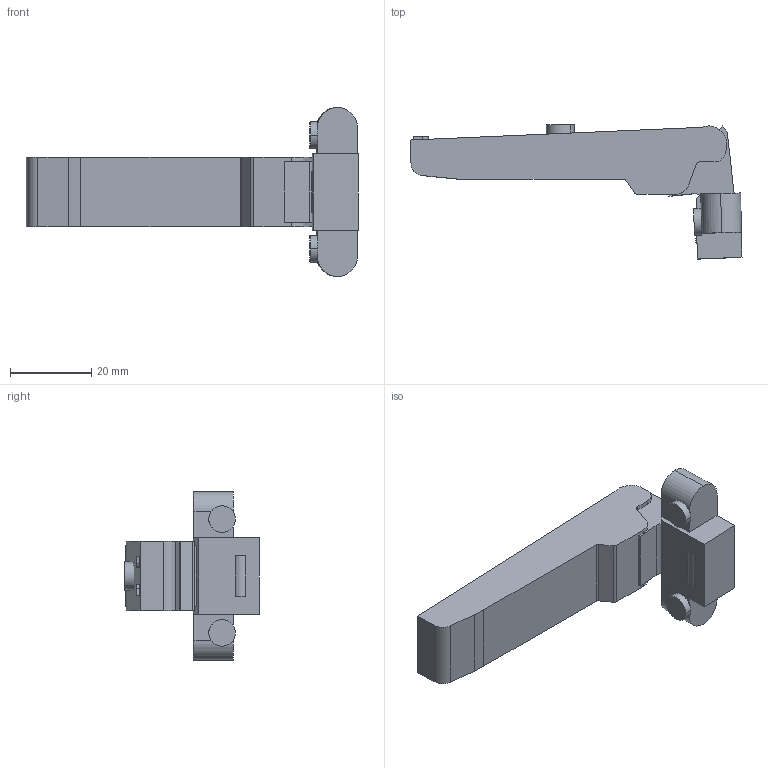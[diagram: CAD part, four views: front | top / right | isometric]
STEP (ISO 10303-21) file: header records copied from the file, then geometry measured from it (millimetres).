
FILE_DESCRIPTION (( 'STEP AP203' ), '1' );
FILE_NAME ('C82A278F-DTC 3D close.STEP', '2024-09-09T03:17:09', ( '微软用户' ), ( '微软中国' ), 'SwSTEP 2.0', 'SolidWorks 2021', '' );
FILE_SCHEMA (( 'CONFIG_CONTROL_DESIGN' ));
Length unit declared in the file: millimetre
Products named in the file (1): C82A278F-DTC 3D close
Bounding box: 81.7 x 33.02 x 41.6 mm (x, y, z)
Volume: 21869.5 mm3; surface area: 7085.8 mm2
Topology: 1 solids, 1 shells, 158 faces, 417 edges, 276 vertices
Faces by surface type: plane 78, bspline 50, cylinder 30
Entity records: 7636 total; most frequent: CARTESIAN_POINT 3934, ORIENTED_EDGE 834, DIRECTION 599, EDGE_CURVE 417, VERTEX_POINT 276, VECTOR 245, LINE 245, AXIS2_PLACEMENT_3D 177
